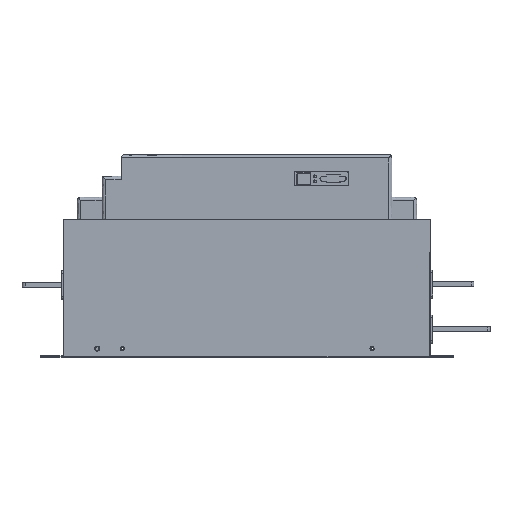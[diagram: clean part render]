
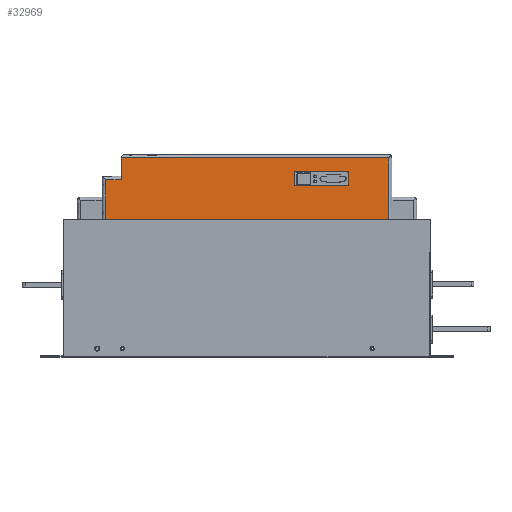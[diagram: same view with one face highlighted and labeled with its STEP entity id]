
A CAD part, top view. The second image highlights one B-rep face of the part: STEP entity #32969.
In plain terms, the highlighted free-form (B-spline) face has degree [1, 1] with [2, 2] control points.
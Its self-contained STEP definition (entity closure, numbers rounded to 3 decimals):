
#383 = CARTESIAN_POINT ( 'NONE',  ( 258., 48., 170. ) ) ;
#1423 = CARTESIAN_POINT ( 'NONE',  ( 258., 40.5, -122. ) ) ;
#4052 = B_SPLINE_CURVE_WITH_KNOTS ( 'NONE', 1,
 ( #78725, #383 ),
 .UNSPECIFIED., .F., .F.,
 ( 2, 2 ),
 ( 0., 1. ),
 .UNSPECIFIED. ) ;
#4152 = EDGE_CURVE ( 'NONE', #22218, #67002, #131382, .T. ) ;
#7569 = EDGE_LOOP ( 'NONE', ( #157689, #153727, #144097, #108339 ) ) ;
#8268 = B_SPLINE_CURVE_WITH_KNOTS ( 'NONE', 1,
 ( #40595, #27377 ),
 .UNSPECIFIED., .F., .F.,
 ( 2, 2 ),
 ( 0., 1. ),
 .UNSPECIFIED. ) ;
#9615 = CARTESIAN_POINT ( 'NONE',  ( 258., 40.5, -122. ) ) ;
#12031 = CARTESIAN_POINT ( 'NONE',  ( 258., 0., -170. ) ) ;
#12761 = VERTEX_POINT ( 'NONE', #135956 ) ;
#13166 = CARTESIAN_POINT ( 'NONE',  ( 258., 48., 151. ) ) ;
#13487 = CARTESIAN_POINT ( 'NONE',  ( 258., 40.5, -122. ) ) ;
#19215 = VERTEX_POINT ( 'NONE', #27232 ) ;
#22218 = VERTEX_POINT ( 'NONE', #137069 ) ;
#25553 = B_SPLINE_CURVE_WITH_KNOTS ( 'NONE', 1,
 ( #13487, #133504 ),
 .UNSPECIFIED., .F., .F.,
 ( 2, 2 ),
 ( 0., 1. ),
 .UNSPECIFIED. ) ;
#26370 = CARTESIAN_POINT ( 'NONE',  ( 258., 74., -170. ) ) ;
#27232 = CARTESIAN_POINT ( 'NONE',  ( 258., 57.5, -122. ) ) ;
#27377 = CARTESIAN_POINT ( 'NONE',  ( 258., 57.5, -122. ) ) ;
#27441 = CARTESIAN_POINT ( 'NONE',  ( 258., 74., 151. ) ) ;
#32866 = B_SPLINE_CURVE_WITH_KNOTS ( 'NONE', 1,
 ( #60013, #163394 ),
 .UNSPECIFIED., .F., .F.,
 ( 2, 2 ),
 ( 0., 1. ),
 .UNSPECIFIED. ) ;
#32969 = ADVANCED_FACE ( 'NONE', ( #45996, #76649 ), #159420, .T. ) ;
#34033 = B_SPLINE_CURVE_WITH_KNOTS ( 'NONE', 1,
 ( #117202, #26370 ),
 .UNSPECIFIED., .F., .F.,
 ( 2, 2 ),
 ( 0., 1. ),
 .UNSPECIFIED. ) ;
#38116 = EDGE_CURVE ( 'NONE', #64463, #116444, #92011, .T. ) ;
#39882 = B_SPLINE_CURVE_WITH_KNOTS ( 'NONE', 1,
 ( #152852, #74669 ),
 .UNSPECIFIED., .F., .F.,
 ( 2, 2 ),
 ( 0., 1. ),
 .UNSPECIFIED. ) ;
#40332 = CARTESIAN_POINT ( 'NONE',  ( 258., 57.5, -122. ) ) ;
#40595 = CARTESIAN_POINT ( 'NONE',  ( 258., 57.5, -56.5 ) ) ;
#42102 = EDGE_CURVE ( 'NONE', #67002, #19215, #8268, .T. ) ;
#45996 = FACE_BOUND ( 'NONE', #7569, .T. ) ;
#47586 = EDGE_CURVE ( 'NONE', #53553, #22218, #25553, .T. ) ;
#47722 = CARTESIAN_POINT ( 'NONE',  ( 258., 74., -170. ) ) ;
#47828 = EDGE_CURVE ( 'NONE', #12761, #137252, #39882, .T. ) ;
#50935 = CARTESIAN_POINT ( 'NONE',  ( 258., 74., 170. ) ) ;
#52313 = CARTESIAN_POINT ( 'NONE',  ( 258., 0., 170. ) ) ;
#53208 = ORIENTED_EDGE ( 'NONE', *, *, #77633, .T. ) ;
#53553 = VERTEX_POINT ( 'NONE', #9615 ) ;
#55230 = EDGE_CURVE ( 'NONE', #103230, #12761, #4052, .T. ) ;
#58270 = ORIENTED_EDGE ( 'NONE', *, *, #146569, .T. ) ;
#59318 = B_SPLINE_CURVE_WITH_KNOTS ( 'NONE', 1,
 ( #40332, #1423 ),
 .UNSPECIFIED., .F., .F.,
 ( 2, 2 ),
 ( 0., 1. ),
 .UNSPECIFIED. ) ;
#59343 = ORIENTED_EDGE ( 'NONE', *, *, #47828, .T. ) ;
#60013 = CARTESIAN_POINT ( 'NONE',  ( 258., 0., 170. ) ) ;
#64463 = VERTEX_POINT ( 'NONE', #47722 ) ;
#67002 = VERTEX_POINT ( 'NONE', #76415 ) ;
#68520 = CARTESIAN_POINT ( 'NONE',  ( 258., 74., 151. ) ) ;
#70746 = CARTESIAN_POINT ( 'NONE',  ( 258., 57.5, -56.5 ) ) ;
#74669 = CARTESIAN_POINT ( 'NONE',  ( 258., 0., 170. ) ) ;
#76415 = CARTESIAN_POINT ( 'NONE',  ( 258., 57.5, -56.5 ) ) ;
#76649 = FACE_OUTER_BOUND ( 'NONE', #94976, .T. ) ;
#77633 = EDGE_CURVE ( 'NONE', #116444, #103230, #98861, .T. ) ;
#78725 = CARTESIAN_POINT ( 'NONE',  ( 258., 48., 151. ) ) ;
#83874 = CARTESIAN_POINT ( 'NONE',  ( 258., 40.5, -56.5 ) ) ;
#92011 = B_SPLINE_CURVE_WITH_KNOTS ( 'NONE', 1,
 ( #134674, #68520 ),
 .UNSPECIFIED., .F., .F.,
 ( 2, 2 ),
 ( 0., 1. ),
 .UNSPECIFIED. ) ;
#94976 = EDGE_LOOP ( 'NONE', ( #59343, #58270, #134081, #138234, #53208, #102544 ) ) ;
#98861 = B_SPLINE_CURVE_WITH_KNOTS ( 'NONE', 1,
 ( #27441, #105716 ),
 .UNSPECIFIED., .F., .F.,
 ( 2, 2 ),
 ( 0., 1. ),
 .UNSPECIFIED. ) ;
#102544 = ORIENTED_EDGE ( 'NONE', *, *, #55230, .T. ) ;
#103230 = VERTEX_POINT ( 'NONE', #13166 ) ;
#103480 = CARTESIAN_POINT ( 'NONE',  ( 258., 74., -170. ) ) ;
#105716 = CARTESIAN_POINT ( 'NONE',  ( 258., 48., 151. ) ) ;
#108339 = ORIENTED_EDGE ( 'NONE', *, *, #42102, .T. ) ;
#110513 = VERTEX_POINT ( 'NONE', #116228 ) ;
#115567 = EDGE_CURVE ( 'NONE', #19215, #53553, #59318, .T. ) ;
#116228 = CARTESIAN_POINT ( 'NONE',  ( 258., 0., -170. ) ) ;
#116444 = VERTEX_POINT ( 'NONE', #141589 ) ;
#117202 = CARTESIAN_POINT ( 'NONE',  ( 258., 0., -170. ) ) ;
#131382 = B_SPLINE_CURVE_WITH_KNOTS ( 'NONE', 1,
 ( #83874, #70746 ),
 .UNSPECIFIED., .F., .F.,
 ( 2, 2 ),
 ( 0., 1. ),
 .UNSPECIFIED. ) ;
#133504 = CARTESIAN_POINT ( 'NONE',  ( 258., 40.5, -56.5 ) ) ;
#134081 = ORIENTED_EDGE ( 'NONE', *, *, #153954, .T. ) ;
#134674 = CARTESIAN_POINT ( 'NONE',  ( 258., 74., -170. ) ) ;
#135956 = CARTESIAN_POINT ( 'NONE',  ( 258., 48., 170. ) ) ;
#137069 = CARTESIAN_POINT ( 'NONE',  ( 258., 40.5, -56.5 ) ) ;
#137252 = VERTEX_POINT ( 'NONE', #52313 ) ;
#138234 = ORIENTED_EDGE ( 'NONE', *, *, #38116, .T. ) ;
#141589 = CARTESIAN_POINT ( 'NONE',  ( 258., 74., 151. ) ) ;
#144097 = ORIENTED_EDGE ( 'NONE', *, *, #4152, .T. ) ;
#146569 = EDGE_CURVE ( 'NONE', #137252, #110513, #32866, .T. ) ;
#152852 = CARTESIAN_POINT ( 'NONE',  ( 258., 48., 170. ) ) ;
#153727 = ORIENTED_EDGE ( 'NONE', *, *, #47586, .T. ) ;
#153954 = EDGE_CURVE ( 'NONE', #110513, #64463, #34033, .T. ) ;
#157689 = ORIENTED_EDGE ( 'NONE', *, *, #115567, .T. ) ;
#159420 = B_SPLINE_SURFACE_WITH_KNOTS ( 'NONE', 1, 1, ( 
 ( #168619, #50935 ),
 ( #12031, #103480 ) ),
 .UNSPECIFIED., .F., .F., .F.,
 ( 2, 2 ),
 ( 2, 2 ),
 ( 0., 1. ),
 ( 0., 1. ),
 .UNSPECIFIED. ) ;
#163394 = CARTESIAN_POINT ( 'NONE',  ( 258., 0., -170. ) ) ;
#168619 = CARTESIAN_POINT ( 'NONE',  ( 258., 0., 170. ) ) ;
